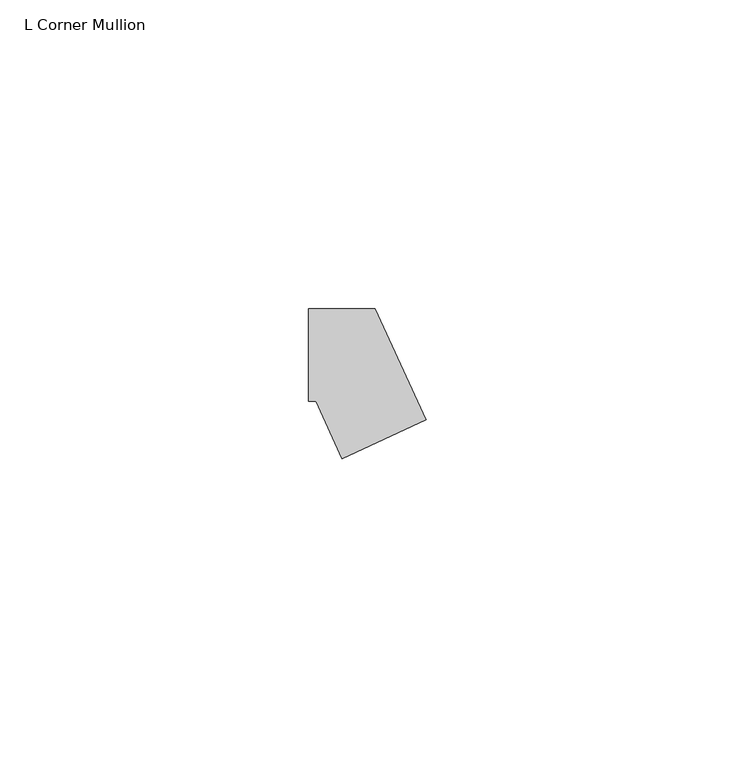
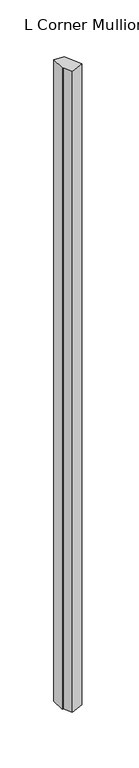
"""IFC4 building model written with IfcOpenShell, lengths in millimetres: member geometry, L Corner Mullion : ARQ_HERR_15X6mm."""

import ifcopenshell
import ifcopenshell.guid

model = None  # the IFC model being written
_history = None  # IfcOwnerHistory: only IFC2X3 demands one
_inside = {}  # id of a spatial element -> (the spatial element, [elements in it])
_under = {}  # id of a project, library or spatial element -> (it, [spatial elements below it])
_declared = {}  # id of a project -> (the project, [libraries it declares])
_typed = {}  # id of a type object -> (the type object, [elements of that type])
_made_of = {}  # id of a material, layer set ... -> (it, [elements and type objects made of it])


def new_model(schema):
    """Start an empty IFC model of exactly this schema.

    Asked for "IFC4X3", IfcOpenShell would pick the latest addendum, in which some entities
    have other attributes; the version numbers below select the first issue.
    IFC2X3 requires an IfcOwnerHistory on every rooted entity: one is made here for all.
    """
    global model, _history
    if schema == "IFC4X3":
        model = ifcopenshell.file(schema_version=(4, 3, 0, 0))
    else:
        model = ifcopenshell.file(schema=schema)
    _inside.clear()
    _under.clear()
    _declared.clear()
    _typed.clear()
    _made_of.clear()
    _history = None
    if model.schema == "IFC2X3":
        org = make("IfcOrganization", Name="unknown")
        user = make(
            "IfcPersonAndOrganization",
            ThePerson=make("IfcPerson", FamilyName="unknown"),
            TheOrganization=org,
        )
        app = make(
            "IfcApplication",
            ApplicationDeveloper=org,
            Version="unknown",
            ApplicationFullName="unknown",
            ApplicationIdentifier="unknown",
        )
        _history = make(
            "IfcOwnerHistory",
            OwningUser=user,
            OwningApplication=app,
            ChangeAction="ADDED",
            CreationDate=0,
        )
    return model


def make(cls, **values):
    """One entity of the class cls with the attributes given. An attribute that is None is left unset."""
    return model.create_entity(
        cls, **{name: value for name, value in values.items() if value is not None}
    )


def rooted(cls, **values):
    """An entity with a GlobalId (a new one), such as an element, a storey or a relation."""
    return make(cls, GlobalId=ifcopenshell.guid.new(), OwnerHistory=_history, **values)


def si_unit(unit_type, name, prefix=None):
    """IfcSIUnit, for example si_unit("LENGTHUNIT", "METRE", prefix="MILLI")."""
    return make("IfcSIUnit", UnitType=unit_type, Prefix=prefix, Name=name)


def assignment(units):
    """IfcUnitAssignment: the units of a project."""
    return None if units is None else make("IfcUnitAssignment", Units=units)


def point(xyz):
    """IfcCartesianPoint."""
    return None if xyz is None else make("IfcCartesianPoint", Coordinates=xyz)


def direction(xyz):
    """IfcDirection."""
    return None if xyz is None else make("IfcDirection", DirectionRatios=xyz)


def frame(location, z_axis=None, x_axis=None):
    """IfcAxis2Placement3D, a coordinate frame: its origin and axes. An axis left out is left unset."""
    return make(
        "IfcAxis2Placement3D",
        Location=point(location),
        Axis=direction(z_axis),
        RefDirection=direction(x_axis),
    )


def origin():
    """The frame at (0, 0, 0) with its axes left unset."""
    return frame((0.0, 0.0, 0.0))


def place(relative_to, where):
    """IfcLocalPlacement: puts the frame where relative to a parent placement (None: the world)."""
    return make(
        "IfcLocalPlacement", PlacementRelTo=relative_to, RelativePlacement=where
    )


def context(
    kind, dimensions, precision=None, world=None, true_north=None, identifier=None
):
    """IfcGeometricRepresentationContext, for example the 3D "Model" context."""
    return make(
        "IfcGeometricRepresentationContext",
        ContextIdentifier=identifier,
        ContextType=kind,
        CoordinateSpaceDimension=dimensions,
        Precision=precision,
        WorldCoordinateSystem=world,
        TrueNorth=true_north,
    )


def project(units=None, contexts=None):
    """IfcProject with its units and contexts."""
    return rooted(
        "IfcProject",
        Name="project",
        RepresentationContexts=contexts,
        UnitsInContext=assignment(units),
    )


def spatial(cls, under=None, at=None, **own):
    """A site, building, storey or space (cls), placed at a placement, below another one or the project."""
    s = rooted(cls, ObjectPlacement=at, **own)
    if under is not None:
        _under.setdefault(under.id(), (under, []))[1].append(s)
    return s


def polyline(points):
    """IfcPolyline through the points."""
    return make("IfcPolyline", Points=[point(p) for p in points])


def outline(outer, holes=None, kind="AREA"):
    """IfcArbitraryClosedProfileDef: a profile drawn as a closed curve; with holes, ...WithVoids."""
    if holes is None:
        return make("IfcArbitraryClosedProfileDef", ProfileType=kind, OuterCurve=outer)
    return make(
        "IfcArbitraryProfileDefWithVoids",
        ProfileType=kind,
        OuterCurve=outer,
        InnerCurves=holes,
    )


def extrude(swept, where, along, depth):
    """IfcExtrudedAreaSolid: the profile swept, set in the frame where, extruded along a direction by depth."""
    return make(
        "IfcExtrudedAreaSolid",
        SweptArea=swept,
        Position=where,
        ExtrudedDirection=direction(along),
        Depth=depth,
    )


def shape(context_of_items, identifier, shape_type, items):
    """IfcShapeRepresentation: the items that make up one representation, for example the "Body"."""
    return make(
        "IfcShapeRepresentation",
        ContextOfItems=context_of_items,
        RepresentationIdentifier=identifier,
        RepresentationType=shape_type,
        Items=items,
    )


def source(mapping_origin, context_of_items, identifier, shape_type, items):
    """IfcRepresentationMap: a shape defined once, which mapped items show again and again."""
    return make(
        "IfcRepresentationMap",
        MappingOrigin=mapping_origin,
        MappedRepresentation=shape(context_of_items, identifier, shape_type, items),
    )


def transform(
    local_origin,
    x_axis=None,
    y_axis=None,
    z_axis=None,
    scale=None,
    scale2=None,
    scale3=None,
    uniform=True,
):
    """IfcCartesianTransformationOperator3D, or its non-uniform kind. x_axis, y_axis, z_axis: its Axis1, 2, 3."""
    if uniform:
        return make(
            "IfcCartesianTransformationOperator3D",
            Axis1=direction(x_axis),
            Axis2=direction(y_axis),
            LocalOrigin=point(local_origin),
            Scale=scale,
            Axis3=direction(z_axis),
        )
    return make(
        "IfcCartesianTransformationOperator3DnonUniform",
        Axis1=direction(x_axis),
        Axis2=direction(y_axis),
        LocalOrigin=point(local_origin),
        Scale=scale,
        Axis3=direction(z_axis),
        Scale2=scale2,
        Scale3=scale3,
    )


def mapped(mapping_source, mapping_target):
    """IfcMappedItem: shows the shape of a source again, moved by a transform."""
    return make(
        "IfcMappedItem", MappingSource=mapping_source, MappingTarget=mapping_target
    )


def made_of(thing, what):
    """Note that an element or type object is made of a material, layer set ...; save() writes the relation."""
    if what is not None:
        _made_of.setdefault(what.id(), (what, []))[1].append(thing)
    return thing


def element(
    cls,
    number,
    at=None,
    inside=None,
    cuts=None,
    type_object=None,
    material=None,
    context=None,
    identifier="Body",
    shape_type=None,
    held_by="IfcProductDefinitionShape",
    body=None,
    shapes=None,
    **own,
):
    """One element of the class cls, such as IfcWall. Its Tag is "e" and its number.

    at: its placement. inside: the storey or other place that contains it. cuts: it is an
    opening in that element (IfcRelVoidsElement). A single representation is given by context,
    identifier, shape_type and body (its items); several are given by shapes. held_by: the class
    of the entity that holds the representations. save() writes the other relations.
    """
    e = rooted(cls, Tag="e%d" % number, ObjectPlacement=at, **own)
    if body is not None:
        shapes = [shape(context, identifier, shape_type, body)]
    if shapes is not None:
        e.Representation = make(held_by, Representations=shapes)
    if inside is not None:
        _inside.setdefault(inside.id(), (inside, []))[1].append(e)
    if cuts is not None:
        rooted(
            "IfcRelVoidsElement", RelatingBuildingElement=cuts, RelatedOpeningElement=e
        )
    if type_object is not None:
        _typed.setdefault(type_object.id(), (type_object, []))[1].append(e)
    return made_of(e, material)


def aggregate(whole, parts):
    """IfcRelAggregates: a whole, such as a stair, and the parts it consists of."""
    return rooted("IfcRelAggregates", RelatingObject=whole, RelatedObjects=parts)


def save(model, path):
    """Write the relations noted so far, then the file.

    IfcRelAggregates (storeys below a building ...), IfcRelContainedInSpatialStructure (elements
    in a storey), IfcRelDefinesByType, IfcRelAssociatesMaterial and IfcRelDeclares: one each for
    every whole, place, type object, material and project.
    """
    for whole, parts in _under.values():
        aggregate(whole, parts)
    for where, things in _inside.values():
        rooted(
            "IfcRelContainedInSpatialStructure",
            RelatedElements=things,
            RelatingStructure=where,
        )
    for kind, things in _typed.values():
        rooted("IfcRelDefinesByType", RelatedObjects=things, RelatingType=kind)
    for what, things in _made_of.values():
        rooted("IfcRelAssociatesMaterial", RelatedObjects=things, RelatingMaterial=what)
    for by, libraries in _declared.values():
        rooted("IfcRelDeclares", RelatingContext=by, RelatedDefinitions=libraries)
    model.write(path)


def l_corner_mullion_3b3bdf5d(model_context):
    return source(origin(), model_context, "Body", "SweptSolid", [
        extrude(outline(polyline([(-0.5775282, -16.7605627), (-4.8156946, -7.5), (-6.0, -7.5), (-6.0, 7.5), (4.8156946, 7.5), (13.0619332, -10.5183601), (-0.5775282, -16.7605627)])), frame((0.0, 0.0, -725.2127975), z_axis=(0.0, 0.0, 1.0), x_axis=(1.0, 0.0, 0.0)), (0.0, 0.0, 1.0), 725.2127975),
    ])


if __name__ == "__main__":
    model = new_model("IFC4")
    model_context = context("Model", 3, world=origin())
    ifc_project = project(units=[si_unit("LENGTHUNIT", "METRE", prefix="MILLI")], contexts=[model_context])
    site = spatial("IfcSite", under=ifc_project)
    building = spatial("IfcBuilding", under=site)
    placement = place(None, origin())
    l_corner_mullion_shape = l_corner_mullion_3b3bdf5d(model_context)
    element("IfcMember", 1, ObjectType="L Corner Mullion : ARQ_HERR_15X6mm", at=placement, inside=building, context=model_context, shape_type="MappedRepresentation", body=[
        mapped(l_corner_mullion_shape, transform((0.0, 0.0, 0.0), x_axis=(1.0, 0.0, 0.0), y_axis=(0.0, 1.0, 0.0), z_axis=(0.0, 0.0, 1.0))),
    ])
    save(model, "model.ifc")
